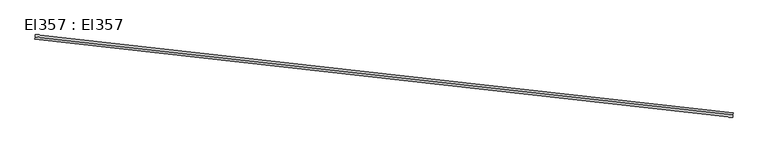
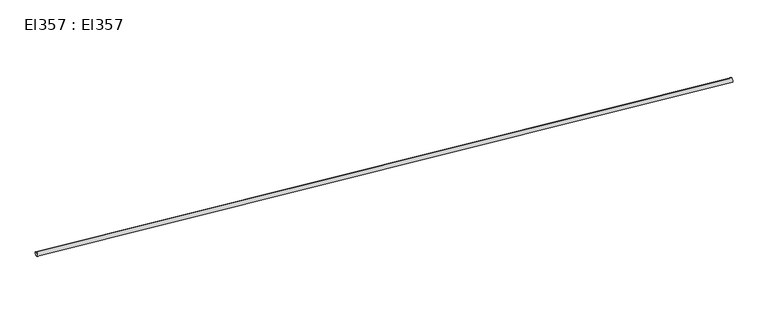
"""IFC4 building model written with IfcOpenShell, lengths in millimetres: cable carrier segment geometry, El357 : El357."""

import ifcopenshell
import ifcopenshell.guid

model = None  # the IFC model being written
_history = None  # IfcOwnerHistory: only IFC2X3 demands one
_inside = {}  # id of a spatial element -> (the spatial element, [elements in it])
_under = {}  # id of a project, library or spatial element -> (it, [spatial elements below it])
_declared = {}  # id of a project -> (the project, [libraries it declares])
_typed = {}  # id of a type object -> (the type object, [elements of that type])
_made_of = {}  # id of a material, layer set ... -> (it, [elements and type objects made of it])


def new_model(schema):
    """Start an empty IFC model of exactly this schema.

    Asked for "IFC4X3", IfcOpenShell would pick the latest addendum, in which some entities
    have other attributes; the version numbers below select the first issue.
    IFC2X3 requires an IfcOwnerHistory on every rooted entity: one is made here for all.
    """
    global model, _history
    if schema == "IFC4X3":
        model = ifcopenshell.file(schema_version=(4, 3, 0, 0))
    else:
        model = ifcopenshell.file(schema=schema)
    _inside.clear()
    _under.clear()
    _declared.clear()
    _typed.clear()
    _made_of.clear()
    _history = None
    if model.schema == "IFC2X3":
        org = make("IfcOrganization", Name="unknown")
        user = make(
            "IfcPersonAndOrganization",
            ThePerson=make("IfcPerson", FamilyName="unknown"),
            TheOrganization=org,
        )
        app = make(
            "IfcApplication",
            ApplicationDeveloper=org,
            Version="unknown",
            ApplicationFullName="unknown",
            ApplicationIdentifier="unknown",
        )
        _history = make(
            "IfcOwnerHistory",
            OwningUser=user,
            OwningApplication=app,
            ChangeAction="ADDED",
            CreationDate=0,
        )
    return model


def make(cls, **values):
    """One entity of the class cls with the attributes given. An attribute that is None is left unset."""
    return model.create_entity(
        cls, **{name: value for name, value in values.items() if value is not None}
    )


def rooted(cls, **values):
    """An entity with a GlobalId (a new one), such as an element, a storey or a relation."""
    return make(cls, GlobalId=ifcopenshell.guid.new(), OwnerHistory=_history, **values)


def si_unit(unit_type, name, prefix=None):
    """IfcSIUnit, for example si_unit("LENGTHUNIT", "METRE", prefix="MILLI")."""
    return make("IfcSIUnit", UnitType=unit_type, Prefix=prefix, Name=name)


def assignment(units):
    """IfcUnitAssignment: the units of a project."""
    return None if units is None else make("IfcUnitAssignment", Units=units)


def point(xyz):
    """IfcCartesianPoint."""
    return None if xyz is None else make("IfcCartesianPoint", Coordinates=xyz)


def direction(xyz):
    """IfcDirection."""
    return None if xyz is None else make("IfcDirection", DirectionRatios=xyz)


def frame(location, z_axis=None, x_axis=None):
    """IfcAxis2Placement3D, a coordinate frame: its origin and axes. An axis left out is left unset."""
    return make(
        "IfcAxis2Placement3D",
        Location=point(location),
        Axis=direction(z_axis),
        RefDirection=direction(x_axis),
    )


def frame_2d(location, x_axis=None):
    """IfcAxis2Placement2D, a coordinate frame in the plane: its origin and x axis."""
    return make(
        "IfcAxis2Placement2D", Location=point(location), RefDirection=direction(x_axis)
    )


def origin():
    """The frame at (0, 0, 0) with its axes left unset."""
    return frame((0.0, 0.0, 0.0))


def place(relative_to, where):
    """IfcLocalPlacement: puts the frame where relative to a parent placement (None: the world)."""
    return make(
        "IfcLocalPlacement", PlacementRelTo=relative_to, RelativePlacement=where
    )


def context(
    kind, dimensions, precision=None, world=None, true_north=None, identifier=None
):
    """IfcGeometricRepresentationContext, for example the 3D "Model" context."""
    return make(
        "IfcGeometricRepresentationContext",
        ContextIdentifier=identifier,
        ContextType=kind,
        CoordinateSpaceDimension=dimensions,
        Precision=precision,
        WorldCoordinateSystem=world,
        TrueNorth=true_north,
    )


def project(units=None, contexts=None):
    """IfcProject with its units and contexts."""
    return rooted(
        "IfcProject",
        Name="project",
        RepresentationContexts=contexts,
        UnitsInContext=assignment(units),
    )


def spatial(cls, under=None, at=None, **own):
    """A site, building, storey or space (cls), placed at a placement, below another one or the project."""
    s = rooted(cls, ObjectPlacement=at, **own)
    if under is not None:
        _under.setdefault(under.id(), (under, []))[1].append(s)
    return s


def circle_curve(where, radius):
    """IfcCircle in the frame where."""
    return make("IfcCircle", Position=where, Radius=radius)


def trimmed(basis, trim1, trim2, sense, master):
    """IfcTrimmedCurve: the piece of a basis curve between two trims."""
    return make(
        "IfcTrimmedCurve",
        BasisCurve=basis,
        Trim1=trim1,
        Trim2=trim2,
        SenseAgreement=sense,
        MasterRepresentation=master,
    )


def segment(curve, same_sense, transition):
    """IfcCompositeCurveSegment."""
    return make(
        "IfcCompositeCurveSegment",
        Transition=transition,
        SameSense=same_sense,
        ParentCurve=curve,
    )


def composite_curve(segments, self_intersect=None):
    """IfcCompositeCurve: segments joined end to end."""
    return make("IfcCompositeCurve", Segments=segments, SelfIntersect=self_intersect)


def outline(outer, holes=None, kind="AREA"):
    """IfcArbitraryClosedProfileDef: a profile drawn as a closed curve; with holes, ...WithVoids."""
    if holes is None:
        return make("IfcArbitraryClosedProfileDef", ProfileType=kind, OuterCurve=outer)
    return make(
        "IfcArbitraryProfileDefWithVoids",
        ProfileType=kind,
        OuterCurve=outer,
        InnerCurves=holes,
    )


def extrude(swept, where, along, depth):
    """IfcExtrudedAreaSolid: the profile swept, set in the frame where, extruded along a direction by depth."""
    return make(
        "IfcExtrudedAreaSolid",
        SweptArea=swept,
        Position=where,
        ExtrudedDirection=direction(along),
        Depth=depth,
    )


def shape(context_of_items, identifier, shape_type, items):
    """IfcShapeRepresentation: the items that make up one representation, for example the "Body"."""
    return make(
        "IfcShapeRepresentation",
        ContextOfItems=context_of_items,
        RepresentationIdentifier=identifier,
        RepresentationType=shape_type,
        Items=items,
    )


def source(mapping_origin, context_of_items, identifier, shape_type, items):
    """IfcRepresentationMap: a shape defined once, which mapped items show again and again."""
    return make(
        "IfcRepresentationMap",
        MappingOrigin=mapping_origin,
        MappedRepresentation=shape(context_of_items, identifier, shape_type, items),
    )


def transform(
    local_origin,
    x_axis=None,
    y_axis=None,
    z_axis=None,
    scale=None,
    scale2=None,
    scale3=None,
    uniform=True,
):
    """IfcCartesianTransformationOperator3D, or its non-uniform kind. x_axis, y_axis, z_axis: its Axis1, 2, 3."""
    if uniform:
        return make(
            "IfcCartesianTransformationOperator3D",
            Axis1=direction(x_axis),
            Axis2=direction(y_axis),
            LocalOrigin=point(local_origin),
            Scale=scale,
            Axis3=direction(z_axis),
        )
    return make(
        "IfcCartesianTransformationOperator3DnonUniform",
        Axis1=direction(x_axis),
        Axis2=direction(y_axis),
        LocalOrigin=point(local_origin),
        Scale=scale,
        Axis3=direction(z_axis),
        Scale2=scale2,
        Scale3=scale3,
    )


def mapped(mapping_source, mapping_target):
    """IfcMappedItem: shows the shape of a source again, moved by a transform."""
    return make(
        "IfcMappedItem", MappingSource=mapping_source, MappingTarget=mapping_target
    )


def made_of(thing, what):
    """Note that an element or type object is made of a material, layer set ...; save() writes the relation."""
    if what is not None:
        _made_of.setdefault(what.id(), (what, []))[1].append(thing)
    return thing


def element(
    cls,
    number,
    at=None,
    inside=None,
    cuts=None,
    type_object=None,
    material=None,
    context=None,
    identifier="Body",
    shape_type=None,
    held_by="IfcProductDefinitionShape",
    body=None,
    shapes=None,
    **own,
):
    """One element of the class cls, such as IfcWall. Its Tag is "e" and its number.

    at: its placement. inside: the storey or other place that contains it. cuts: it is an
    opening in that element (IfcRelVoidsElement). A single representation is given by context,
    identifier, shape_type and body (its items); several are given by shapes. held_by: the class
    of the entity that holds the representations. save() writes the other relations.
    """
    e = rooted(cls, Tag="e%d" % number, ObjectPlacement=at, **own)
    if body is not None:
        shapes = [shape(context, identifier, shape_type, body)]
    if shapes is not None:
        e.Representation = make(held_by, Representations=shapes)
    if inside is not None:
        _inside.setdefault(inside.id(), (inside, []))[1].append(e)
    if cuts is not None:
        rooted(
            "IfcRelVoidsElement", RelatingBuildingElement=cuts, RelatedOpeningElement=e
        )
    if type_object is not None:
        _typed.setdefault(type_object.id(), (type_object, []))[1].append(e)
    return made_of(e, material)


def aggregate(whole, parts):
    """IfcRelAggregates: a whole, such as a stair, and the parts it consists of."""
    return rooted("IfcRelAggregates", RelatingObject=whole, RelatedObjects=parts)


def save(model, path):
    """Write the relations noted so far, then the file.

    IfcRelAggregates (storeys below a building ...), IfcRelContainedInSpatialStructure (elements
    in a storey), IfcRelDefinesByType, IfcRelAssociatesMaterial and IfcRelDeclares: one each for
    every whole, place, type object, material and project.
    """
    for whole, parts in _under.values():
        aggregate(whole, parts)
    for where, things in _inside.values():
        rooted(
            "IfcRelContainedInSpatialStructure",
            RelatedElements=things,
            RelatingStructure=where,
        )
    for kind, things in _typed.values():
        rooted("IfcRelDefinesByType", RelatedObjects=things, RelatingType=kind)
    for what, things in _made_of.values():
        rooted("IfcRelAssociatesMaterial", RelatedObjects=things, RelatingMaterial=what)
    for by, libraries in _declared.values():
        rooted("IfcRelDeclares", RelatingContext=by, RelatedDefinitions=libraries)
    model.write(path)


def el357_el357_142e7ce7(model_context):
    return source(origin(), model_context, "Body", "SweptSolid", [
        extrude(outline(composite_curve([segment(trimmed(circle_curve(frame_2d((0.0, -51.0)), 51.0), [point((0.0, -102.0))], [point((0.0, 0.0))], False, "CARTESIAN"), True, "CONTINUOUS"), segment(trimmed(circle_curve(frame_2d((0.0, -51.0)), 51.0), [point((0.0, 0.0))], [point((0.0, -102.0))], False, "CARTESIAN"), True, "CONTINUOUS")], self_intersect=False)), frame((23202.7572389, 13506.6806953, 51.0), z_axis=(-0.9937557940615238, 0.11157697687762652, 0.0), x_axis=(-0.11157697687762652, -0.9937557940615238, 0.0)), (0.0, 0.0, 1.0), 16458.9),
    ])


if __name__ == "__main__":
    model = new_model("IFC4")
    model_context = context("Model", 3, world=origin())
    ifc_project = project(units=[si_unit("LENGTHUNIT", "METRE", prefix="MILLI")], contexts=[model_context])
    site = spatial("IfcSite", under=ifc_project)
    building = spatial("IfcBuilding", under=site)
    placement = place(None, origin())
    el357_el357_shape = el357_el357_142e7ce7(model_context)
    element("IfcCableCarrierSegment", 1, ObjectType="El357 : El357", at=placement, inside=building, context=model_context, shape_type="MappedRepresentation", body=[
        mapped(el357_el357_shape, transform((0.0, 0.0, 0.0), x_axis=(1.0, 0.0, 0.0), y_axis=(0.0, 1.0, 0.0), z_axis=(0.0, 0.0, 1.0))),
    ])
    save(model, "model.ifc")
